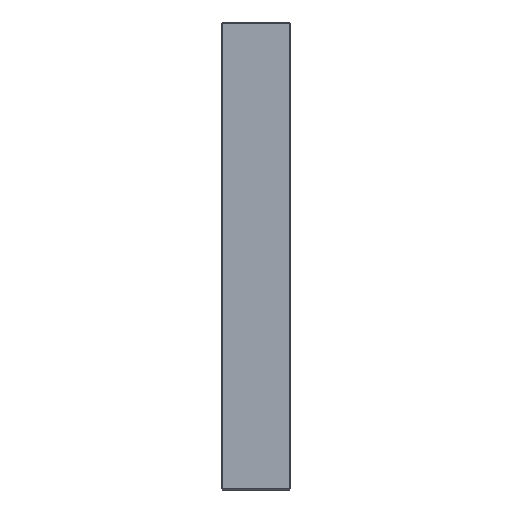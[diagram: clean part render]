
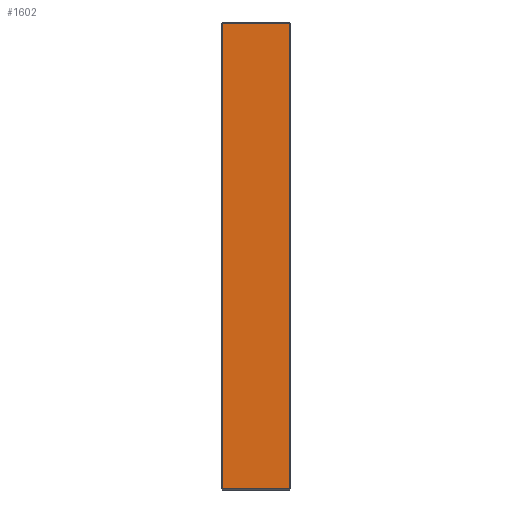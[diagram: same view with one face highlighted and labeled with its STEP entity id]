
A CAD part, left-side view. The second image highlights one B-rep face of the part: STEP entity #1602.
In plain terms, the highlighted planar face has unit normal (-1, 0, 0).
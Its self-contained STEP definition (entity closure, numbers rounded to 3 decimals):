
#44 = FACE_OUTER_BOUND ( 'NONE', #1132, .T. ) ;
#54 = CARTESIAN_POINT ( 'NONE',  ( -148., 65., 223. ) ) ;
#77 = VERTEX_POINT ( 'NONE', #582 ) ;
#79 = EDGE_CURVE ( 'NONE', #77, #1718, #988, .T. ) ;
#82 = CARTESIAN_POINT ( 'NONE',  ( -148., 1., 223. ) ) ;
#116 = DIRECTION ( 'NONE',  ( 0., 0., -1. ) ) ;
#188 = VECTOR ( 'NONE', #511, 1000. ) ;
#194 = DIRECTION ( 'NONE',  ( 0., 0., 1. ) ) ;
#237 = VECTOR ( 'NONE', #194, 1000. ) ;
#332 = LINE ( 'NONE', #1095, #351 ) ;
#351 = VECTOR ( 'NONE', #1093, 1000. ) ;
#511 = DIRECTION ( 'NONE',  ( 0., 1., 0. ) ) ;
#548 = CARTESIAN_POINT ( 'NONE',  ( -148., 66., 222. ) ) ;
#582 = CARTESIAN_POINT ( 'NONE',  ( -148., 1., 222. ) ) ;
#643 = CARTESIAN_POINT ( 'NONE',  ( -148., 65., -222. ) ) ;
#672 = VECTOR ( 'NONE', #116, 1000. ) ;
#838 = CARTESIAN_POINT ( 'NONE',  ( -148., 65., 222. ) ) ;
#903 = ORIENTED_EDGE ( 'NONE', *, *, #1281, .T. ) ;
#906 = ORIENTED_EDGE ( 'NONE', *, *, #960, .T. ) ;
#909 = ORIENTED_EDGE ( 'NONE', *, *, #1272, .T. ) ;
#930 = ORIENTED_EDGE ( 'NONE', *, *, #79, .T. ) ;
#960 = EDGE_CURVE ( 'NONE', #1198, #1652, #332, .T. ) ;
#988 = LINE ( 'NONE', #548, #188 ) ;
#1044 = LINE ( 'NONE', #82, #237 ) ;
#1093 = DIRECTION ( 'NONE',  ( 0., -1., 0. ) ) ;
#1095 = CARTESIAN_POINT ( 'NONE',  ( -148., 66., -222. ) ) ;
#1128 = LINE ( 'NONE', #54, #672 ) ;
#1132 = EDGE_LOOP ( 'NONE', ( #930, #909, #906, #903 ) ) ;
#1198 = VERTEX_POINT ( 'NONE', #643 ) ;
#1272 = EDGE_CURVE ( 'NONE', #1718, #1198, #1128, .T. ) ;
#1281 = EDGE_CURVE ( 'NONE', #1652, #77, #1044, .T. ) ;
#1523 = PLANE ( 'NONE',  #1572 ) ;
#1546 = CARTESIAN_POINT ( 'NONE',  ( -148., 66., 223. ) ) ;
#1572 = AXIS2_PLACEMENT_3D ( 'NONE', #1546, #1603, #1619 ) ;
#1602 = ADVANCED_FACE ( 'NONE', ( #44 ), #1523, .F. ) ;
#1603 = DIRECTION ( 'NONE',  ( 1., 0., 0. ) ) ;
#1619 = DIRECTION ( 'NONE',  ( 0., 0., -1. ) ) ;
#1652 = VERTEX_POINT ( 'NONE', #1876 ) ;
#1718 = VERTEX_POINT ( 'NONE', #838 ) ;
#1876 = CARTESIAN_POINT ( 'NONE',  ( -148., 1., -222. ) ) ;
